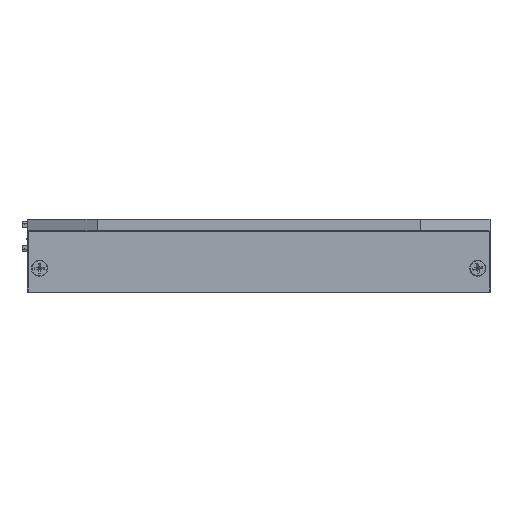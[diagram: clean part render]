
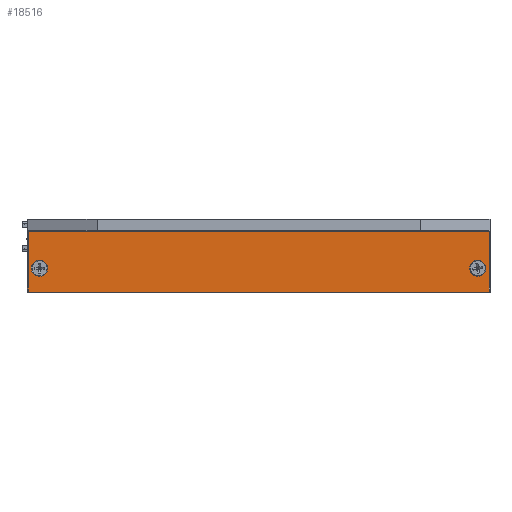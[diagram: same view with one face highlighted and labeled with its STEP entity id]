
A CAD part, front view. The second image highlights one B-rep face of the part: STEP entity #18516.
In plain terms, the highlighted planar face has unit normal (0, -1, 0).
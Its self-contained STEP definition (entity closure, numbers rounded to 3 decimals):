
#3049=DIRECTION('',(-1.,0.,0.));
#3050=VECTOR('',#3049,112.6);
#3051=CARTESIAN_POINT('',(56.3,-81.5,0.));
#3052=LINE('',#3051,#3050);
#3253=CARTESIAN_POINT('',(-53.5,-81.5,-9.));
#3254=DIRECTION('',(0.,1.,0.));
#3255=DIRECTION('',(0.,0.,1.));
#3256=AXIS2_PLACEMENT_3D('',#3253,#3254,#3255);
#3258=CARTESIAN_POINT('',(-53.5,-81.5,-9.));
#3259=DIRECTION('',(0.,1.,0.));
#3260=DIRECTION('',(0.,0.,-1.));
#3261=AXIS2_PLACEMENT_3D('',#3258,#3259,#3260);
#3263=CARTESIAN_POINT('',(53.5,-81.5,-9.));
#3264=DIRECTION('',(0.,1.,0.));
#3265=DIRECTION('',(0.,0.,-1.));
#3266=AXIS2_PLACEMENT_3D('',#3263,#3264,#3265);
#3268=CARTESIAN_POINT('',(53.5,-81.5,-9.));
#3269=DIRECTION('',(0.,1.,0.));
#3270=DIRECTION('',(0.,0.,1.));
#3271=AXIS2_PLACEMENT_3D('',#3268,#3269,#3270);
#3273=DIRECTION('',(1.,0.,0.));
#3274=VECTOR('',#3273,112.6);
#3275=CARTESIAN_POINT('',(-56.3,-81.5,-14.8));
#3276=LINE('',#3275,#3274);
#3277=DIRECTION('',(0.,0.,-1.));
#3278=VECTOR('',#3277,14.8);
#3279=CARTESIAN_POINT('',(-56.3,-81.5,0.));
#3280=LINE('',#3279,#3278);
#3973=DIRECTION('',(0.,0.,-1.));
#3974=VECTOR('',#3973,14.8);
#3975=CARTESIAN_POINT('',(56.3,-81.5,0.));
#3976=LINE('',#3975,#3974);
#11015=CARTESIAN_POINT('',(-56.3,-81.5,-14.8));
#11016=VERTEX_POINT('',#11015);
#11023=CARTESIAN_POINT('',(56.3,-81.5,-14.8));
#11024=VERTEX_POINT('',#11023);
#11025=CARTESIAN_POINT('',(53.5,-81.5,-7.));
#11026=CARTESIAN_POINT('',(53.5,-81.5,-11.));
#11027=VERTEX_POINT('',#11025);
#11028=VERTEX_POINT('',#11026);
#11029=CARTESIAN_POINT('',(-53.5,-81.5,-11.));
#11030=CARTESIAN_POINT('',(-53.5,-81.5,-7.));
#11031=VERTEX_POINT('',#11029);
#11032=VERTEX_POINT('',#11030);
#13291=CARTESIAN_POINT('',(-56.3,-81.5,0.));
#13293=VERTEX_POINT('',#13291);
#13294=CARTESIAN_POINT('',(56.3,-81.5,0.));
#13295=VERTEX_POINT('',#13294);
#18491=CARTESIAN_POINT('',(-56.5,-81.5,-15.));
#18492=DIRECTION('',(0.,-1.,0.));
#18493=DIRECTION('',(0.,0.,1.));
#18494=AXIS2_PLACEMENT_3D('',#18491,#18492,#18493);
#18495=PLANE('',#18494);
#18497=ORIENTED_EDGE('',*,*,#18496,.T.);
#18499=ORIENTED_EDGE('',*,*,#18498,.F.);
#18500=ORIENTED_EDGE('',*,*,#18480,.F.);
#18501=ORIENTED_EDGE('',*,*,#18152,.F.);
#18502=EDGE_LOOP('',(#18497,#18499,#18500,#18501));
#18503=FACE_OUTER_BOUND('',#18502,.F.);
#18505=ORIENTED_EDGE('',*,*,#18504,.F.);
#18507=ORIENTED_EDGE('',*,*,#18506,.F.);
#18508=EDGE_LOOP('',(#18505,#18507));
#18509=FACE_BOUND('',#18508,.F.);
#18511=ORIENTED_EDGE('',*,*,#18510,.F.);
#18513=ORIENTED_EDGE('',*,*,#18512,.F.);
#18514=EDGE_LOOP('',(#18511,#18513));
#18515=FACE_BOUND('',#18514,.F.);
#18516=ADVANCED_FACE('',(#18503,#18509,#18515),#18495,.T.);
#3257=CIRCLE('',#3256,2.);
#3262=CIRCLE('',#3261,2.);
#3267=CIRCLE('',#3266,2.);
#3272=CIRCLE('',#3271,2.);
#18152=EDGE_CURVE('',#13295,#13293,#3052,.T.);
#18480=EDGE_CURVE('',#13293,#11016,#3280,.T.);
#18496=EDGE_CURVE('',#13295,#11024,#3976,.T.);
#18498=EDGE_CURVE('',#11016,#11024,#3276,.T.);
#18504=EDGE_CURVE('',#11028,#11027,#3267,.T.);
#18506=EDGE_CURVE('',#11027,#11028,#3272,.T.);
#18510=EDGE_CURVE('',#11032,#11031,#3257,.T.);
#18512=EDGE_CURVE('',#11031,#11032,#3262,.T.);
